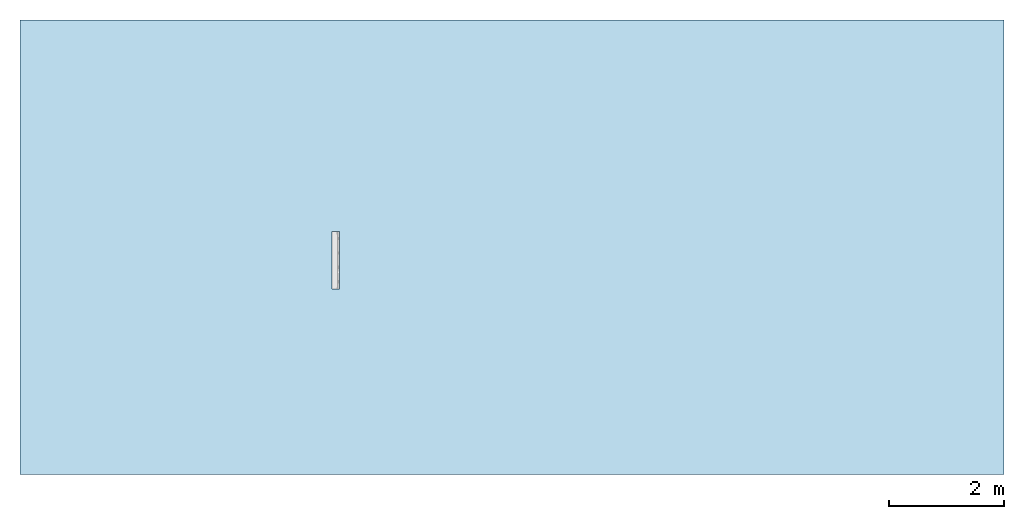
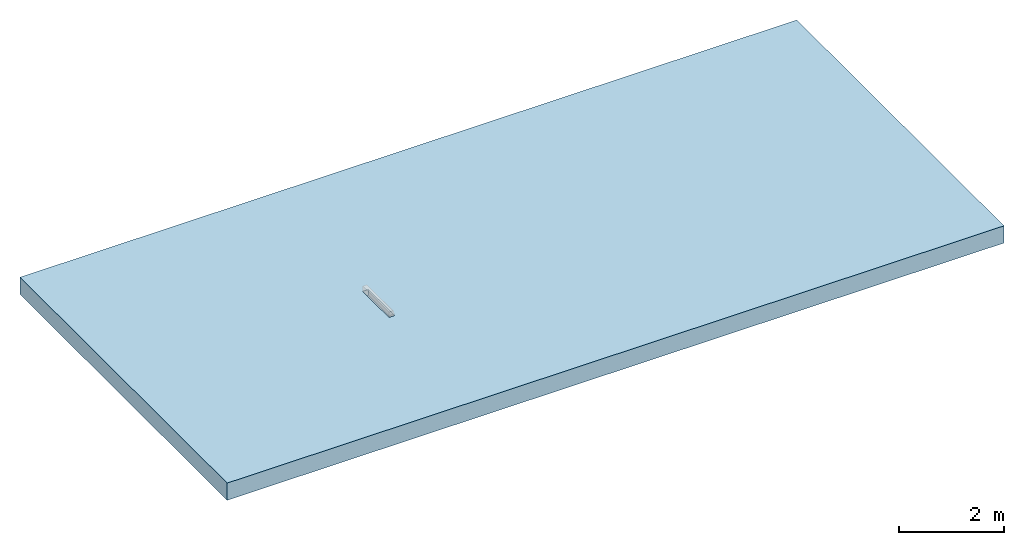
# One storey, incomplete: 1 slab, 3 openings.
"""IFC2X3 building model written with IfcOpenShell, lengths in millimetres."""

from ifc_helpers import new_model, entity, si_unit, converted_unit, direction, frame, frame_2d, origin, origin_2d_with_axis, place, context, subcontext, project, spatial, rectangle, extrude, material, layer, layer_set, layer_usage, element, save


model = new_model("IFC2X3")

# Units and contexts
model_context = context("Model", 3, precision=1e-06, world=origin(), true_north=direction((2.0, 6.12303176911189e-17, 1.0)))
context_of_model = context(None, 3, precision=1e-06, world=origin(), true_north=direction((2.0, 6.12303176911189e-17, 1.0)))
body_context = subcontext(model_context, "Body", "Model", "MODEL_VIEW")
ifc_project = project(units=[si_unit("LENGTHUNIT", "METRE", prefix="MILLI"), si_unit("AREAUNIT", "SQUARE_METRE", prefix="MILLI"), si_unit("VOLUMEUNIT", "CUBIC_METRE", prefix="MILLI"), converted_unit("PLANEANGLEUNIT", "DEGREE", entity("IfcRatioMeasure", 0.0174532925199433), si_unit("PLANEANGLEUNIT", "RADIAN"), dimensions=[0, 0, 0, 0, 0, 0, 0]), si_unit("TIMEUNIT", "SECOND")], contexts=[model_context, context_of_model])

# Site, building, storey
site_placement = place(None, origin())
site = spatial("IfcSite", under=ifc_project, at=site_placement, Name="Default", CompositionType="ELEMENT")
building_placement = place(site_placement, origin())
building = spatial("IfcBuilding", under=site, at=building_placement, CompositionType="ELEMENT")
storey_placement = place(building_placement, origin())
storey = spatial("IfcBuildingStorey", under=building, at=storey_placement, Name="Level 1", CompositionType="ELEMENT", Elevation=0.0)

# Slab, openings
ifc_material = material(Name="Plant")
ifc_layer = layer(ifc_material, 400.0)
ifc_layer_set = layer_set([ifc_layer], Name="Floor:Generic Floor - 400mm")
ifc_layer_usage = layer_usage(ifc_layer_set, "AXIS3", "POSITIVE", 0.0)
slab_placement = place(storey_placement, origin())
slab = element("IfcSlab", 1, at=slab_placement, inside=storey, material=ifc_layer_usage, Name="Floor:Generic Floor - 400mm", ObjectType="Floor:Generic Floor - 400mm", PredefinedType="FLOOR", context=body_context, shape_type="SweptSolid", body=[
    extrude(rectangle(XDim=7900.0, YDim=17100.0, at=frame_2d((0.0, 0.0), x_axis=(0.0, -1.0))), frame((-8097.86261836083, 1059.07636553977, 0.0), z_axis=(0.0, 0.0, -1.0), x_axis=(-1.0, 0.0, 0.0)), (0.0, 0.0, 1.0), 400.0),
])
opening_1_placement = place(slab_placement, origin())
element("IfcOpeningElement", 2, at=opening_1_placement, cuts=slab, ObjectType="Recess", context=body_context, shape_type="SweptSolid", body=[
    extrude(rectangle(XDim=280.350941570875, YDim=25.5515234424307, at=origin_2d_with_axis()), frame((-11236.6900252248, 586.058372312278, -1875.0), z_axis=(0.0, 0.0, 1.0), x_axis=(0.0, -1.0, 0.0)), (0.0, 0.0, 1.0), 255.0),
])
opening_2_placement = place(slab_placement, origin())
element("IfcOpeningElement", 3, at=opening_2_placement, cuts=slab, ObjectType="Recess", context=body_context, shape_type="SweptSolid", body=[
    extrude(rectangle(XDim=1000.0, YDim=150.000000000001, at=origin_2d_with_axis()), frame((-11161.4142635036, 835.882901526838, -2005.0), z_axis=(0.0, 0.0, 1.0), x_axis=(0.0, -1.0, 0.0)), (0.0, 0.0, 1.0), 4.99999999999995),
])
opening_3_placement = place(slab_placement, origin())
element("IfcOpeningElement", 4, at=opening_3_placement, cuts=slab, ObjectType="Recess", context=body_context, shape_type="SweptSolid", body=[
    extrude(rectangle(XDim=125.0, YDim=1000.0, at=origin_2d_with_axis()), frame((-11161.4142635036, 835.882901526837, -130.0), z_axis=(0.0, 0.0, 1.0), x_axis=(-1.0, 0.0, 0.0)), (0.0, 0.0, 1.0), 130.0),
])

save(model, "model.ifc")
